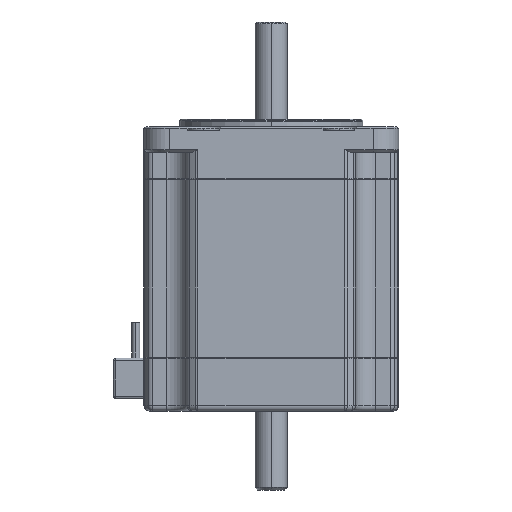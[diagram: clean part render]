
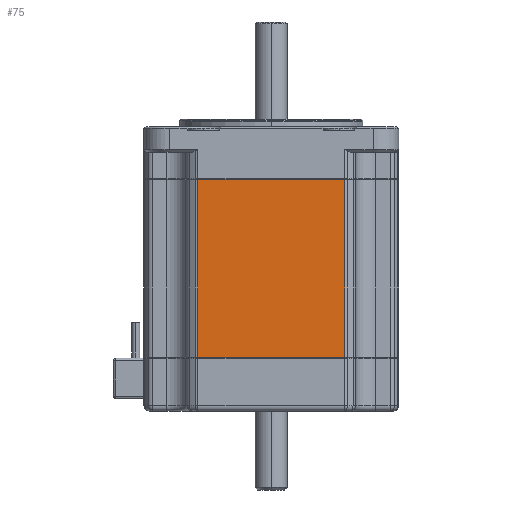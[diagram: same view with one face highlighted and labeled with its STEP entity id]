
A CAD part, left-side view. The second image highlights one B-rep face of the part: STEP entity #75.
In plain terms, the highlighted planar face has unit normal (-1, 0, 0).
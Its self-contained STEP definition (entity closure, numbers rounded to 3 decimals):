
#75 = ADVANCED_FACE ( 'NONE', ( #15744 ), #2615, .F. ) ;
#647 = EDGE_LOOP ( 'NONE', ( #2102, #2104, #2103, #2105 ) ) ;
#1872 = EDGE_CURVE ( 'NONE', #15118, #15115, #6395, .T. ) ;
#1874 = EDGE_CURVE ( 'NONE', #15111, #15118, #6401, .T. ) ;
#1875 = EDGE_CURVE ( 'NONE', #15111, #15096, #6404, .T. ) ;
#1876 = EDGE_CURVE ( 'NONE', #15115, #15096, #6407, .T. ) ;
#2102 = ORIENTED_EDGE ( 'NONE', *, *, #1875, .F. ) ;
#2103 = ORIENTED_EDGE ( 'NONE', *, *, #1872, .T. ) ;
#2104 = ORIENTED_EDGE ( 'NONE', *, *, #1874, .T. ) ;
#2105 = ORIENTED_EDGE ( 'NONE', *, *, #1876, .T. ) ;
#2615 = PLANE ( 'NONE',  #15839 ) ;
#2616 = CARTESIAN_POINT ( 'NONE',  ( -25., 14.422, -45.4 ) ) ;
#2617 = DIRECTION ( 'NONE',  ( 1., 0., 0. ) ) ;
#2618 = DIRECTION ( 'NONE',  ( 0., 1., 0. ) ) ;
#4768 = VECTOR ( 'NONE', #6397, 1000. ) ;
#4769 = VECTOR ( 'NONE', #6403, 1000. ) ;
#4771 = VECTOR ( 'NONE', #6406, 1000. ) ;
#4773 = VECTOR ( 'NONE', #6409, 1000. ) ;
#6395 = LINE ( 'NONE', #6396, #4768 ) ;
#6396 = CARTESIAN_POINT ( 'NONE',  ( -25., -14.422, -45.4 ) ) ;
#6397 = DIRECTION ( 'NONE',  ( 0., 0., 1. ) ) ;
#6401 = LINE ( 'NONE', #6402, #4769 ) ;
#6402 = CARTESIAN_POINT ( 'NONE',  ( -25., -14.422, -45.2 ) ) ;
#6403 = DIRECTION ( 'NONE',  ( 0., -1., 0. ) ) ;
#6404 = LINE ( 'NONE', #6405, #4771 ) ;
#6405 = CARTESIAN_POINT ( 'NONE',  ( -25., 14.422, -45.4 ) ) ;
#6406 = DIRECTION ( 'NONE',  ( 0., 0., 1. ) ) ;
#6407 = LINE ( 'NONE', #6408, #4773 ) ;
#6408 = CARTESIAN_POINT ( 'NONE',  ( -25., 14.422, -10.4 ) ) ;
#6409 = DIRECTION ( 'NONE',  ( 0., 1., 0. ) ) ;
#8816 = CARTESIAN_POINT ( 'NONE',  ( -25., 14.422, -10.4 ) ) ;
#8830 = CARTESIAN_POINT ( 'NONE',  ( -25., 14.422, -45.2 ) ) ;
#8834 = CARTESIAN_POINT ( 'NONE',  ( -25., -14.422, -10.4 ) ) ;
#8837 = CARTESIAN_POINT ( 'NONE',  ( -25., -14.422, -45.2 ) ) ;
#15096 = VERTEX_POINT ( 'NONE', #8816 ) ;
#15111 = VERTEX_POINT ( 'NONE', #8830 ) ;
#15115 = VERTEX_POINT ( 'NONE', #8834 ) ;
#15118 = VERTEX_POINT ( 'NONE', #8837 ) ;
#15744 = FACE_OUTER_BOUND ( 'NONE', #647, .T. ) ;
#15839 = AXIS2_PLACEMENT_3D ( 'NONE', #2616, #2617, #2618 ) ;
